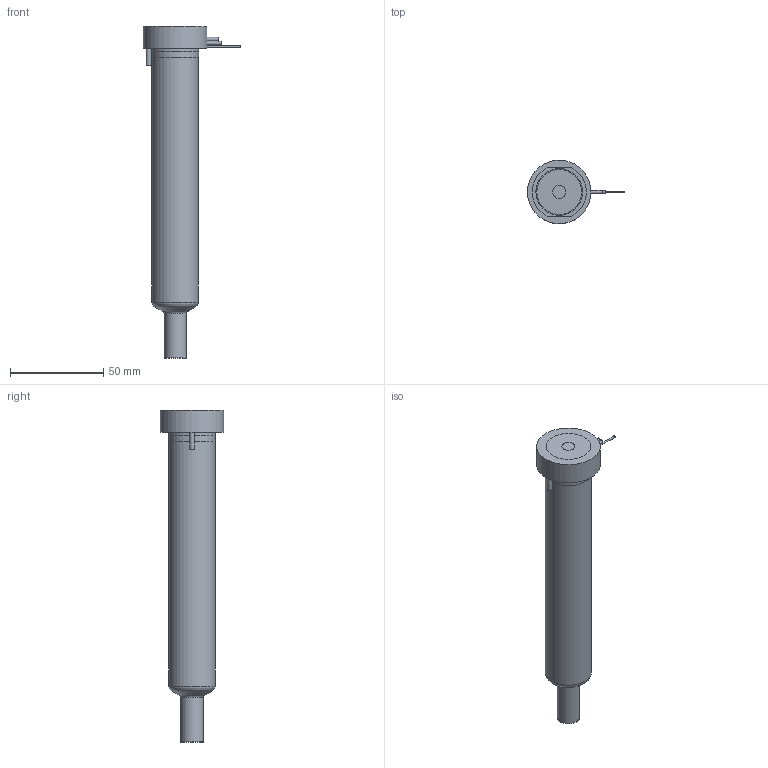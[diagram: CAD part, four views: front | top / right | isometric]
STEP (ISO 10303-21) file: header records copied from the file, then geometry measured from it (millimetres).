
FILE_DESCRIPTION(/* description */ (''),/* implementation_level */ '2;1');
FILE_NAME(/* name */ 'MXYCN16145P7F_200C_a',/* time_stamp */ '2016-02-26T15:14:16+13:00',/* author */ (''),/* organization */ (''),/* preprocessor_version */ 'ST-DEVELOPER v9',/* originating_system */ 'UGS - NX 4.0',/* authorisation */ '');
FILE_SCHEMA (('CONFIG_CONTROL_DESIGN'));
Length unit declared in the file: millimetre
Products named in the file (1): matt70754gv1
Bounding box: 51.95 x 34 x 177.66 mm (x, y, z)
Volume: 137922.7 mm3; surface area: 28501 mm2
Topology: 2 solids, 2 shells, 71 faces, 156 edges, 102 vertices
Faces by surface type: plane 31, cylinder 26, torus 7, cone 5, bspline 1, sphere 1
Full cylindrical faces by diameter (mm): 1 x2, 1.8 x1, 2 x2, 2.5 x1, 5 x1, 7 x1, 11.61 x1, 11.995 x2, 14.8 x1, 20.8 x1, 24.9 x1, 25 x2, 34 x1
Entity records: 2121 total; most frequent: CARTESIAN_POINT 614, DIRECTION 314, ORIENTED_EDGE 234, AXIS2_PLACEMENT_3D 141, EDGE_CURVE 117, EDGE_LOOP 114, VERTEX_POINT 91, ADVANCED_FACE 71
